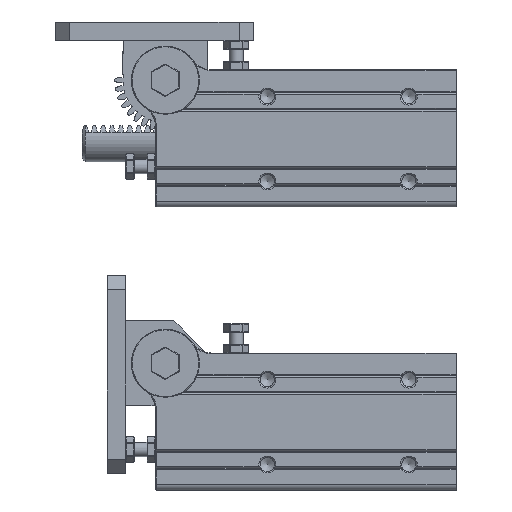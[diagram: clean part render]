
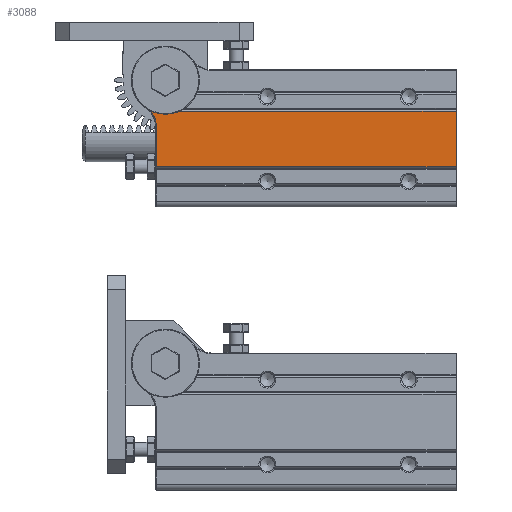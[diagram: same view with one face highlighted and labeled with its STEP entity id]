
A CAD part, left-side view. The second image highlights one B-rep face of the part: STEP entity #3088.
In plain terms, the highlighted planar face has unit normal (-1, 0, 0).
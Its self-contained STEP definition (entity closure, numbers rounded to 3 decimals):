
#903=PLANE('',#31450);
#3088=ADVANCED_FACE('',(#5315),#903,.T.);
#5315=FACE_OUTER_BOUND('',#6788,.T.);
#6788=EDGE_LOOP('',(#15600,#15601,#15602,#15603,#15604,#15605,#15606));
#9120=LINE('',#43842,#12020);
#9122=LINE('',#43847,#12022);
#9294=LINE('',#44386,#12194);
#9296=LINE('',#44393,#12196);
#9297=LINE('',#44394,#12197);
#12020=VECTOR('',#34607,1.);
#12022=VECTOR('',#34609,1.);
#12194=VECTOR('',#34995,1.);
#12196=VECTOR('',#35003,1.);
#12197=VECTOR('',#35004,1.);
#15600=ORIENTED_EDGE('',*,*,#26436,.F.);
#15601=ORIENTED_EDGE('',*,*,#26680,.T.);
#15602=ORIENTED_EDGE('',*,*,#26434,.F.);
#15603=ORIENTED_EDGE('',*,*,#26681,.T.);
#15604=ORIENTED_EDGE('',*,*,#26682,.T.);
#15605=ORIENTED_EDGE('',*,*,#26678,.T.);
#15606=ORIENTED_EDGE('',*,*,#26683,.T.);
#23617=VERTEX_POINT('',#43843);
#23618=VERTEX_POINT('',#43844);
#23619=VERTEX_POINT('',#43846);
#23620=VERTEX_POINT('',#43848);
#23785=VERTEX_POINT('',#44385);
#23786=VERTEX_POINT('',#44387);
#23787=VERTEX_POINT('',#44392);
#26434=EDGE_CURVE('',#23617,#23618,#9120,.T.);
#26436=EDGE_CURVE('',#23619,#23620,#9122,.T.);
#26678=EDGE_CURVE('',#23786,#23785,#9294,.T.);
#26680=EDGE_CURVE('',#23619,#23618,#30548,.T.);
#26681=EDGE_CURVE('',#23617,#23787,#30549,.T.);
#26682=EDGE_CURVE('',#23787,#23786,#9296,.T.);
#26683=EDGE_CURVE('',#23785,#23620,#9297,.T.);
#30548=CIRCLE('',#31448,11.8);
#30549=CIRCLE('',#31449,8.3);
#31448=AXIS2_PLACEMENT_3D('',#44390,#34999,#35000);
#31449=AXIS2_PLACEMENT_3D('',#44391,#35001,#35002);
#31450=AXIS2_PLACEMENT_3D('',#44395,#35005,#35006);
#34607=DIRECTION('',(0.,-1.,0.));
#34609=DIRECTION('',(0.,-1.,0.));
#34995=DIRECTION('',(0.,-1.,0.));
#34999=DIRECTION('',(1.,0.,0.));
#35000=DIRECTION('',(0.,0.,1.));
#35001=DIRECTION('',(1.,0.,0.));
#35002=DIRECTION('',(0.,0.,1.));
#35003=DIRECTION('',(0.,0.,-1.));
#35004=DIRECTION('',(0.,0.,1.));
#35005=DIRECTION('',(-1.,0.,0.));
#35006=DIRECTION('',(0.,1.,0.));
#43842=CARTESIAN_POINT('',(-30.25,255.7,5.8));
#43843=CARTESIAN_POINT('',(-30.25,108.165,5.8));
#43844=CARTESIAN_POINT('',(-30.25,107.271,5.8));
#43846=CARTESIAN_POINT('',(-30.25,98.729,5.8));
#43847=CARTESIAN_POINT('',(-30.25,255.7,5.8));
#43848=CARTESIAN_POINT('',(-30.25,0.3,5.8));
#44385=CARTESIAN_POINT('',(-30.25,0.3,-13.8));
#44386=CARTESIAN_POINT('',(-30.25,255.7,-13.8));
#44387=CARTESIAN_POINT('',(-30.25,106.2,-13.8));
#44390=CARTESIAN_POINT('',(-30.25,103.,16.8));
#44391=CARTESIAN_POINT('',(-30.25,114.5,0.437));
#44392=CARTESIAN_POINT('',(-30.25,106.2,0.437));
#44393=CARTESIAN_POINT('',(-30.25,106.2,11.8));
#44394=CARTESIAN_POINT('',(-30.25,0.3,11.8));
#44395=CARTESIAN_POINT('',(-30.25,255.7,11.8));
